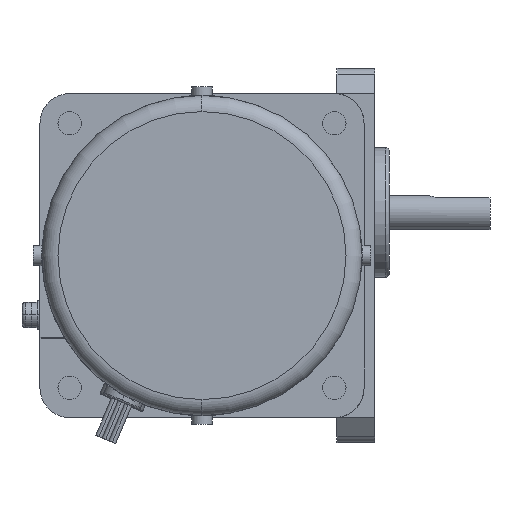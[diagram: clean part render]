
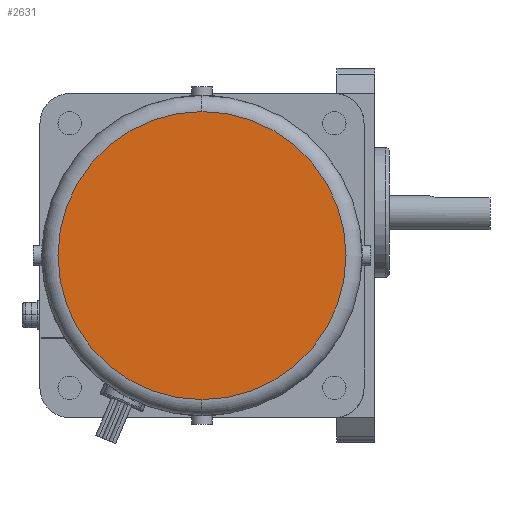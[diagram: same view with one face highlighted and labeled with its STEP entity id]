
A CAD part, left-side view. The second image highlights one B-rep face of the part: STEP entity #2631.
In plain terms, the highlighted planar face has unit normal (-1, 0, 0).
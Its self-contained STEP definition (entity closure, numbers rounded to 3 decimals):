
#2611=CARTESIAN_POINT('POINT737958',(-216.,48.,28.));
#2612=VERTEX_POINT('VERTEX737958',#2611);
#2613=CARTESIAN_POINT('POINT737959',(-216.,48.,-52.));
#2614=VERTEX_POINT('VERTEX737959',#2613);
#2615=CARTESIAN_POINT('POS1216250',(-216.,48.,-12.));
#2616=DIRECTION('DIR1828967',(-1.,0.,0.));
#2617=DIRECTION('DIR1828968',(0.,0.,-1.));
#2618=AXIS2_PLACEMENT_3D('AXIS612718',#2615,#2616,#2617);
#2619=CIRCLE('ELLIPSE279393',#2618,40.);
#2620=EDGE_CURVE('EDGE1132248',#2612,#2614,#2619,.T.);
#2621=ORIENTED_EDGE('COEDGE2265207',*,*,#2620,.T.);
#2622=EDGE_CURVE('EDGE1132249',#2614,#2612,#2619,.T.);
#2623=ORIENTED_EDGE('COEDGE2265208',*,*,#2622,.T.);
#2624=EDGE_LOOP('NONE',(#2621,#2623));
#2625=FACE_BOUND('LOOP1',#2624,.T.);
#2626=CARTESIAN_POINT('POS1216251',(-216.,48.,-34.245));
#2627=DIRECTION('DIR1828969',(-1.,0.,0.));
#2628=DIRECTION('DIR1828970',(0.,1.,0.));
#2629=AXIS2_PLACEMENT_3D('AXIS612719',#2626,#2627,#2628);
#2630=PLANE('PLANE206896',#2629);
#2631=ADVANCED_FACE('FACE464289',(#2625),#2630,.T.);
